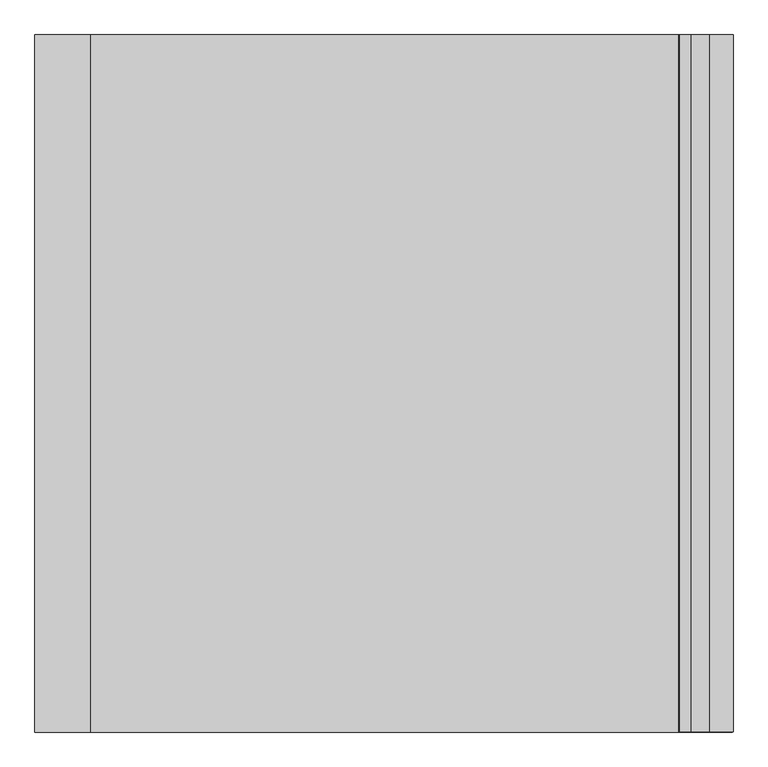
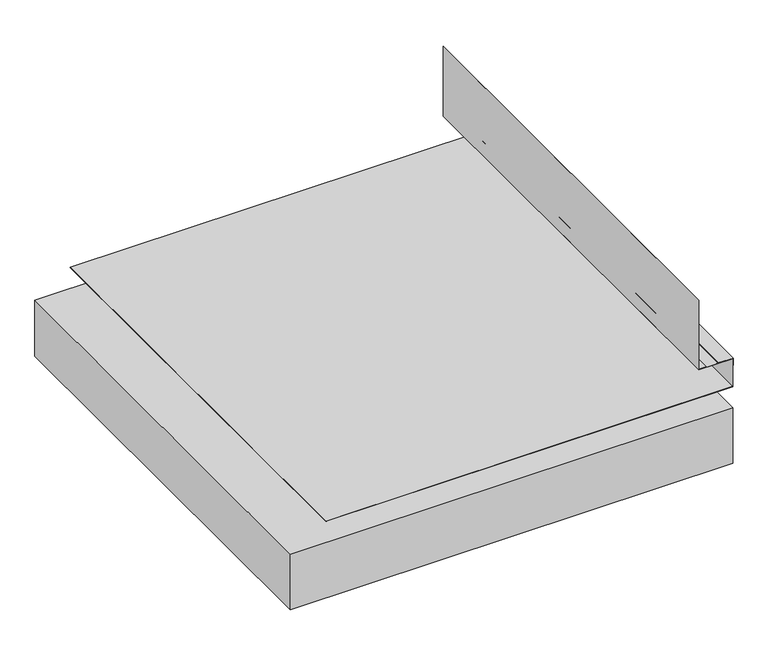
"""IFC4 building model written with IfcOpenShell, lengths in millimetres: proxy geometry, AMPHIBIA : AMPHIBIA."""

from ifc_helpers import new_model, si_unit, frame, origin, place, context, project, spatial, polyline, outline, extrude, source, transform, mapped, element, save


def generic_models_b0066df1(model_context):
    return source(origin(), model_context, "Body", "SweptSolid", [
        extrude(outline(polyline([(-501.9704105, 145.8700195), (2498.0295895, 145.8700195), (2498.0295895, -2854.1299805), (-501.9704105, -2854.1299805), (-501.9704105, 145.8700195)])), frame((0.0, 0.0, -753.823798), z_axis=(0.0, 0.0, 1.0), x_axis=(1.0, 0.0, 0.0)), (0.0, 0.0, 1.0), 400.0),
        extrude(outline(polyline([(-1.223798, 2317.8295895), (0.095003, 2317.8295895), (0.095003, 2269.1043175), (98.776202, 2269.1043175), (98.776202, 2267.8295895), (-1.223798, 2267.8295895), (-1.223798, 2317.8295895)])), frame((0.0, -2854.1299805, 0.0), z_axis=(0.0, 1.0, 0.0), x_axis=(0.0, 0.0, 1.0)), (0.0, 0.0, 1.0), 3000.0),
        extrude(outline(polyline([(-51.223798, 2499.3295895), (-51.223798, 2500.671058), (0.1142542, 2500.671058), (0.1142542, 2399.3295895), (-1.223798, 2399.3295895), (-1.223798, 2499.3295895), (-51.223798, 2499.3295895)])), frame((0.0, -2854.1299805, 0.0), z_axis=(0.0, 1.0, 0.0), x_axis=(0.0, 0.0, 1.0)), (0.0, 0.0, 1.0), 3000.0),
        extrude(outline(polyline([(-203.823798, -261.9704105), (-203.823798, 2499.3295895), (-1.223798, 2499.3295895), (-1.223798, 2267.8295895), (497.476202, 2267.8295895), (497.476202, 2266.5295895), (-2.523798, 2266.5295895), (-2.523798, 2498.0295895), (-202.523798, 2498.0295895), (-202.523798, -261.9704105), (-203.823798, -261.9704105)])), frame((0.0, -2854.1299805, 0.0), z_axis=(0.0, 1.0, 0.0), x_axis=(0.0, 0.0, 1.0)), (0.0, 0.0, 1.0), 3000.0),
    ])


if __name__ == "__main__":
    model = new_model("IFC4")
    model_context = context("Model", 3, world=origin())
    ifc_project = project(units=[si_unit("LENGTHUNIT", "METRE", prefix="MILLI")], contexts=[model_context])
    site = spatial("IfcSite", under=ifc_project)
    building = spatial("IfcBuilding", under=site)
    placement = place(None, origin())
    generic_models_shape = generic_models_b0066df1(model_context)
    element("IfcBuildingElementProxy", 1, Name="AMPHIBIA : AMPHIBIA", ObjectType="AMPHIBIA : AMPHIBIA", at=placement, inside=building, context=model_context, shape_type="MappedRepresentation", body=[
        mapped(generic_models_shape, transform((0.0, 0.0, 0.0), x_axis=(1.0, 0.0, 0.0), y_axis=(0.0, 1.0, 0.0), z_axis=(0.0, 0.0, 1.0))),
    ])
    save(model, "model.ifc")
